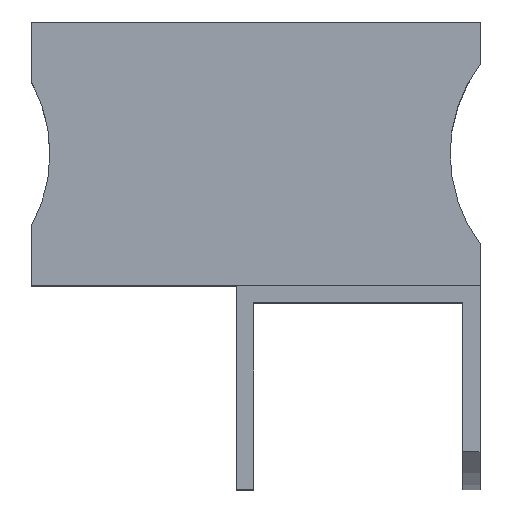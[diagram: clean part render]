
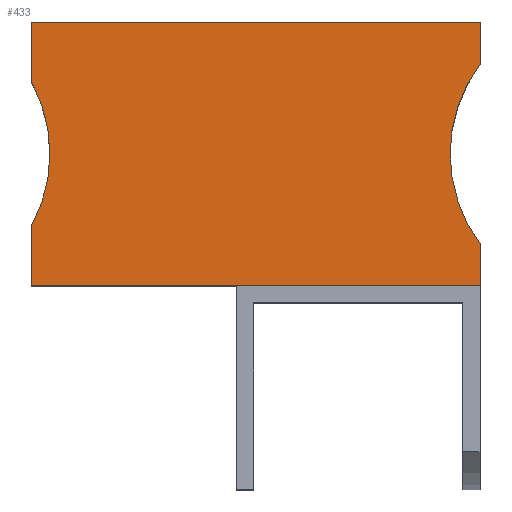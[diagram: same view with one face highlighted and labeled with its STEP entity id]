
A CAD part, top view. The second image highlights one B-rep face of the part: STEP entity #433.
In plain terms, the highlighted planar face has unit normal (0, 0, 1).
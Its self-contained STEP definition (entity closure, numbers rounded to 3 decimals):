
#18 = VERTEX_POINT ( 'NONE', #968 ) ;
#31 = CARTESIAN_POINT ( 'NONE',  ( -61.3, 33.95, 22.1 ) ) ;
#40 = CARTESIAN_POINT ( 'NONE',  ( 16.3, 16.3, 22.1 ) ) ;
#42 = CARTESIAN_POINT ( 'NONE',  ( -41.3, 33.95, 22.1 ) ) ;
#50 = EDGE_CURVE ( 'NONE', #200, #729, #487, .T. ) ;
#54 = LINE ( 'NONE', #555, #125 ) ;
#56 = AXIS2_PLACEMENT_3D ( 'NONE', #331, #500, #829 ) ;
#58 = AXIS2_PLACEMENT_3D ( 'NONE', #394, #150, #227 ) ;
#83 = DIRECTION ( 'NONE',  ( 1., 0., 0. ) ) ;
#87 = CARTESIAN_POINT ( 'NONE',  ( 16.3, 16.3, 22.1 ) ) ;
#96 = CARTESIAN_POINT ( 'NONE',  ( 16.3, 16.3, 22.1 ) ) ;
#125 = VECTOR ( 'NONE', #893, 1000. ) ;
#146 = CARTESIAN_POINT ( 'NONE',  ( -43.7, 16.3, 22.1 ) ) ;
#148 = EDGE_CURVE ( 'NONE', #1042, #368, #588, .T. ) ;
#150 = DIRECTION ( 'NONE',  ( 0., 0., 1. ) ) ;
#151 = ORIENTED_EDGE ( 'NONE', *, *, #239, .F. ) ;
#165 = VERTEX_POINT ( 'NONE', #990 ) ;
#198 = DIRECTION ( 'NONE',  ( -1., 0., 0. ) ) ;
#200 = VERTEX_POINT ( 'NONE', #836 ) ;
#206 = DIRECTION ( 'NONE',  ( -1., 0., 0. ) ) ;
#211 = VECTOR ( 'NONE', #671, 1000. ) ;
#213 = VECTOR ( 'NONE', #819, 1000. ) ;
#220 = CARTESIAN_POINT ( 'NONE',  ( -43.7, 16.3, 22.1 ) ) ;
#227 = DIRECTION ( 'NONE',  ( 1., 0., 0. ) ) ;
#233 = ORIENTED_EDGE ( 'NONE', *, *, #148, .F. ) ;
#239 = EDGE_CURVE ( 'NONE', #612, #200, #438, .T. ) ;
#242 = ORIENTED_EDGE ( 'NONE', *, *, #655, .T. ) ;
#248 = FACE_OUTER_BOUND ( 'NONE', #988, .T. ) ;
#298 = EDGE_CURVE ( 'NONE', #643, #729, #793, .T. ) ;
#301 = ORIENTED_EDGE ( 'NONE', *, *, #681, .F. ) ;
#330 = LINE ( 'NONE', #1068, #213 ) ;
#331 = CARTESIAN_POINT ( 'NONE',  ( -61.3, 33.95, 22.1 ) ) ;
#347 = ORIENTED_EDGE ( 'NONE', *, *, #50, .F. ) ;
#368 = VERTEX_POINT ( 'NONE', #220 ) ;
#394 = CARTESIAN_POINT ( 'NONE',  ( 32.3, 33.95, 22.1 ) ) ;
#409 = DIRECTION ( 'NONE',  ( 0., 1., 0. ) ) ;
#418 = CIRCLE ( 'NONE', #58, 20. ) ;
#433 = ADVANCED_FACE ( 'NONE', ( #248 ), #1071, .T. ) ;
#438 = CIRCLE ( 'NONE', #56, 20. ) ;
#441 = VECTOR ( 'NONE', #409, 1000. ) ;
#442 = CARTESIAN_POINT ( 'NONE',  ( -43.7, 24.45, 22.1 ) ) ;
#445 = EDGE_CURVE ( 'NONE', #1042, #18, #989, .T. ) ;
#474 = EDGE_CURVE ( 'NONE', #368, #630, #330, .T. ) ;
#487 = LINE ( 'NONE', #146, #873 ) ;
#500 = DIRECTION ( 'NONE',  ( 0., 0., 1. ) ) ;
#502 = DIRECTION ( 'NONE',  ( 0., 0., 1. ) ) ;
#542 = ORIENTED_EDGE ( 'NONE', *, *, #1013, .F. ) ;
#555 = CARTESIAN_POINT ( 'NONE',  ( 16.3, 16.3, 22.1 ) ) ;
#568 = ORIENTED_EDGE ( 'NONE', *, *, #298, .T. ) ;
#578 = CARTESIAN_POINT ( 'NONE',  ( 16.3, 16.3, 22.1 ) ) ;
#588 = LINE ( 'NONE', #96, #211 ) ;
#612 = VERTEX_POINT ( 'NONE', #42 ) ;
#619 = CARTESIAN_POINT ( 'NONE',  ( 16.3, 51.6, 22.1 ) ) ;
#622 = DIRECTION ( 'NONE',  ( 0., 0., 1. ) ) ;
#630 = VERTEX_POINT ( 'NONE', #442 ) ;
#643 = VERTEX_POINT ( 'NONE', #730 ) ;
#649 = CARTESIAN_POINT ( 'NONE',  ( -43.7, 51.6, 22.1 ) ) ;
#655 = EDGE_CURVE ( 'NONE', #165, #643, #54, .T. ) ;
#671 = DIRECTION ( 'NONE',  ( -1., 0., 0. ) ) ;
#681 = EDGE_CURVE ( 'NONE', #165, #18, #418, .T. ) ;
#729 = VERTEX_POINT ( 'NONE', #649 ) ;
#730 = CARTESIAN_POINT ( 'NONE',  ( 16.3, 51.6, 22.1 ) ) ;
#751 = AXIS2_PLACEMENT_3D ( 'NONE', #31, #622, #206 ) ;
#756 = ORIENTED_EDGE ( 'NONE', *, *, #474, .F. ) ;
#769 = AXIS2_PLACEMENT_3D ( 'NONE', #578, #502, #83 ) ;
#793 = LINE ( 'NONE', #619, #889 ) ;
#819 = DIRECTION ( 'NONE',  ( 0., 1., 0. ) ) ;
#829 = DIRECTION ( 'NONE',  ( -1., 0., 0. ) ) ;
#836 = CARTESIAN_POINT ( 'NONE',  ( -43.7, 43.45, 22.1 ) ) ;
#873 = VECTOR ( 'NONE', #1069, 1000. ) ;
#889 = VECTOR ( 'NONE', #198, 1000. ) ;
#893 = DIRECTION ( 'NONE',  ( 0., 1., 0. ) ) ;
#968 = CARTESIAN_POINT ( 'NONE',  ( 16.3, 21.95, 22.1 ) ) ;
#988 = EDGE_LOOP ( 'NONE', ( #301, #242, #568, #347, #151, #542, #756, #233, #1005 ) ) ;
#989 = LINE ( 'NONE', #87, #441 ) ;
#990 = CARTESIAN_POINT ( 'NONE',  ( 16.3, 45.95, 22.1 ) ) ;
#1005 = ORIENTED_EDGE ( 'NONE', *, *, #445, .T. ) ;
#1013 = EDGE_CURVE ( 'NONE', #630, #612, #1043, .T. ) ;
#1042 = VERTEX_POINT ( 'NONE', #40 ) ;
#1043 = CIRCLE ( 'NONE', #751, 20. ) ;
#1068 = CARTESIAN_POINT ( 'NONE',  ( -43.7, 16.3, 22.1 ) ) ;
#1069 = DIRECTION ( 'NONE',  ( 0., 1., 0. ) ) ;
#1071 = PLANE ( 'NONE',  #769 ) ;
